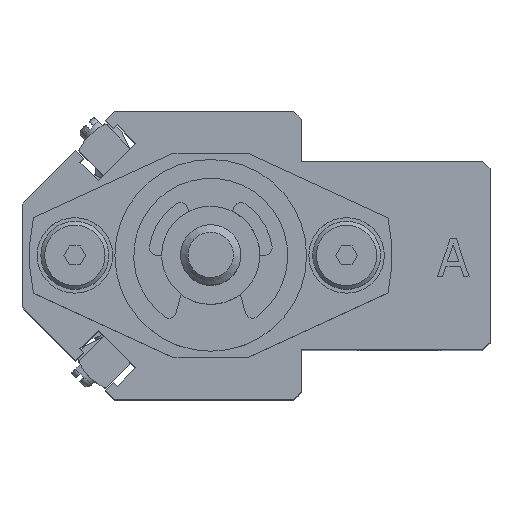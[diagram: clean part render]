
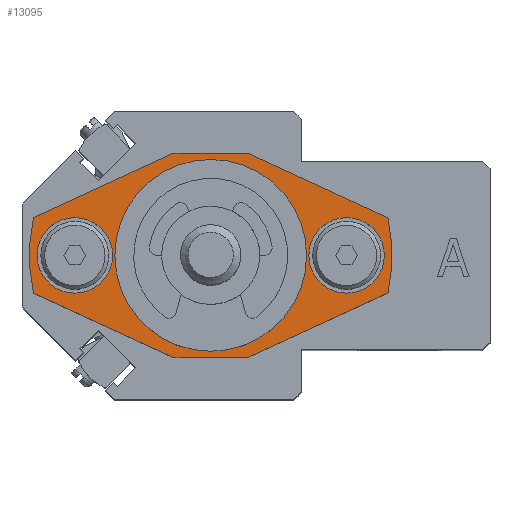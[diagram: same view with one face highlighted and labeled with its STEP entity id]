
A CAD part, top view. The second image highlights one B-rep face of the part: STEP entity #13095.
In plain terms, the highlighted planar face has unit normal (0, 0, 1).
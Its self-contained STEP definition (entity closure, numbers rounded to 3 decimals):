
#359=FACE_BOUND('',#4797,.T.);
#360=FACE_BOUND('',#4798,.T.);
#361=FACE_BOUND('',#4799,.T.);
#1539=LINE('',#21553,#2922);
#1546=LINE('',#21570,#2929);
#1547=LINE('',#21573,#2930);
#1548=LINE('',#21574,#2931);
#1549=LINE('',#21576,#2932);
#1550=LINE('',#21577,#2933);
#2922=VECTOR('',#17468,10.);
#2929=VECTOR('',#17483,10.);
#2930=VECTOR('',#17486,10.);
#2931=VECTOR('',#17487,10.);
#2932=VECTOR('',#17488,10.);
#2933=VECTOR('',#17489,10.);
#3405=CIRCLE('',#14359,10.5);
#3406=CIRCLE('',#14360,10.5);
#3413=CIRCLE('',#14371,24.);
#3415=CIRCLE('',#14374,24.);
#3418=CIRCLE('',#14381,5.);
#3419=CIRCLE('',#14382,5.);
#3420=CIRCLE('',#14383,5.);
#3421=CIRCLE('',#14384,5.);
#4103=FACE_OUTER_BOUND('',#4796,.T.);
#4796=EDGE_LOOP('',(#11007,#11008,#11009,#11010,#11011,#11012,#11013,#11014));
#4797=EDGE_LOOP('',(#11015,#11016));
#4798=EDGE_LOOP('',(#11017,#11018));
#4799=EDGE_LOOP('',(#11019,#11020));
#5964=VERTEX_POINT('',#21511);
#5965=VERTEX_POINT('',#21513);
#5973=VERTEX_POINT('',#21534);
#5974=VERTEX_POINT('',#21536);
#5977=VERTEX_POINT('',#21543);
#5978=VERTEX_POINT('',#21545);
#5980=VERTEX_POINT('',#21551);
#5986=VERTEX_POINT('',#21568);
#5987=VERTEX_POINT('',#21572);
#5988=VERTEX_POINT('',#21575);
#5989=VERTEX_POINT('',#21578);
#5990=VERTEX_POINT('',#21579);
#5991=VERTEX_POINT('',#21582);
#5992=VERTEX_POINT('',#21583);
#7697=EDGE_CURVE('',#5965,#5964,#3405,.T.);
#7698=EDGE_CURVE('',#5964,#5965,#3406,.T.);
#7707=EDGE_CURVE('',#5974,#5973,#3413,.T.);
#7711=EDGE_CURVE('',#5978,#5977,#3415,.T.);
#7715=EDGE_CURVE('',#5973,#5980,#1539,.T.);
#7724=EDGE_CURVE('',#5977,#5986,#1546,.T.);
#7725=EDGE_CURVE('',#5980,#5987,#1547,.T.);
#7726=EDGE_CURVE('',#5987,#5978,#1548,.T.);
#7727=EDGE_CURVE('',#5986,#5988,#1549,.T.);
#7728=EDGE_CURVE('',#5988,#5974,#1550,.T.);
#7729=EDGE_CURVE('',#5989,#5990,#3418,.T.);
#7730=EDGE_CURVE('',#5990,#5989,#3419,.T.);
#7731=EDGE_CURVE('',#5991,#5992,#3420,.T.);
#7732=EDGE_CURVE('',#5992,#5991,#3421,.T.);
#11007=ORIENTED_EDGE('',*,*,#7707,.T.);
#11008=ORIENTED_EDGE('',*,*,#7715,.T.);
#11009=ORIENTED_EDGE('',*,*,#7725,.T.);
#11010=ORIENTED_EDGE('',*,*,#7726,.T.);
#11011=ORIENTED_EDGE('',*,*,#7711,.T.);
#11012=ORIENTED_EDGE('',*,*,#7724,.T.);
#11013=ORIENTED_EDGE('',*,*,#7727,.T.);
#11014=ORIENTED_EDGE('',*,*,#7728,.T.);
#11015=ORIENTED_EDGE('',*,*,#7697,.T.);
#11016=ORIENTED_EDGE('',*,*,#7698,.T.);
#11017=ORIENTED_EDGE('',*,*,#7729,.T.);
#11018=ORIENTED_EDGE('',*,*,#7730,.T.);
#11019=ORIENTED_EDGE('',*,*,#7731,.T.);
#11020=ORIENTED_EDGE('',*,*,#7732,.T.);
#12290=PLANE('',#14380);
#13095=ADVANCED_FACE('',(#4103,#359,#360,#361),#12290,.T.);
#14359=AXIS2_PLACEMENT_3D('',#21514,#17427,#17428);
#14360=AXIS2_PLACEMENT_3D('',#21515,#17429,#17430);
#14371=AXIS2_PLACEMENT_3D('',#21537,#17453,#17454);
#14374=AXIS2_PLACEMENT_3D('',#21546,#17461,#17462);
#14380=AXIS2_PLACEMENT_3D('',#21571,#17484,#17485);
#14381=AXIS2_PLACEMENT_3D('',#21580,#17490,#17491);
#14382=AXIS2_PLACEMENT_3D('',#21581,#17492,#17493);
#14383=AXIS2_PLACEMENT_3D('',#21584,#17494,#17495);
#14384=AXIS2_PLACEMENT_3D('',#21585,#17496,#17497);
#17427=DIRECTION('center_axis',(0.,0.,-1.));
#17428=DIRECTION('ref_axis',(1.,0.,0.));
#17429=DIRECTION('center_axis',(0.,0.,-1.));
#17430=DIRECTION('ref_axis',(1.,0.,0.));
#17453=DIRECTION('center_axis',(0.,0.,1.));
#17454=DIRECTION('ref_axis',(0.978,-0.208,0.));
#17461=DIRECTION('center_axis',(0.,0.,1.));
#17462=DIRECTION('ref_axis',(-0.978,0.208,0.));
#17468=DIRECTION('',(0.908,-0.418,0.));
#17483=DIRECTION('',(-0.908,0.418,0.));
#17484=DIRECTION('center_axis',(0.,0.,1.));
#17485=DIRECTION('ref_axis',(1.,0.,0.));
#17486=DIRECTION('',(1.,0.,0.));
#17487=DIRECTION('',(0.908,0.418,0.));
#17488=DIRECTION('',(-1.,0.,0.));
#17489=DIRECTION('',(-0.908,-0.418,0.));
#17490=DIRECTION('center_axis',(0.,0.,-1.));
#17491=DIRECTION('ref_axis',(1.,0.,0.));
#17492=DIRECTION('center_axis',(0.,0.,-1.));
#17493=DIRECTION('ref_axis',(1.,0.,0.));
#17494=DIRECTION('center_axis',(0.,0.,-1.));
#17495=DIRECTION('ref_axis',(1.,0.,0.));
#17496=DIRECTION('center_axis',(0.,0.,-1.));
#17497=DIRECTION('ref_axis',(1.,0.,0.));
#21511=CARTESIAN_POINT('',(-10.5,0.,6.));
#21513=CARTESIAN_POINT('',(10.5,0.,6.));
#21514=CARTESIAN_POINT('Origin',(0.,0.,6.));
#21515=CARTESIAN_POINT('Origin',(0.,0.,6.));
#21534=CARTESIAN_POINT('',(-23.473,-5.001,6.));
#21536=CARTESIAN_POINT('',(-23.473,5.001,6.));
#21537=CARTESIAN_POINT('Origin',(0.,0.,6.));
#21543=CARTESIAN_POINT('',(23.473,5.001,6.));
#21545=CARTESIAN_POINT('',(23.473,-5.001,6.));
#21546=CARTESIAN_POINT('Origin',(0.,0.,6.));
#21551=CARTESIAN_POINT('',(-5.,-13.5,6.));
#21553=CARTESIAN_POINT('',(-15.7,-8.578,6.));
#21568=CARTESIAN_POINT('',(5.,13.5,6.));
#21570=CARTESIAN_POINT('',(15.7,8.578,6.));
#21571=CARTESIAN_POINT('Origin',(0.,0.,6.));
#21572=CARTESIAN_POINT('',(5.,-13.5,6.));
#21573=CARTESIAN_POINT('',(25.4,-13.5,6.));
#21574=CARTESIAN_POINT('',(15.7,-8.578,6.));
#21575=CARTESIAN_POINT('',(-5.,13.5,6.));
#21576=CARTESIAN_POINT('',(-25.4,13.5,6.));
#21577=CARTESIAN_POINT('',(-15.7,8.578,6.));
#21578=CARTESIAN_POINT('',(-13.,0.,6.));
#21579=CARTESIAN_POINT('',(-23.,0.,6.));
#21580=CARTESIAN_POINT('Origin',(-18.,0.,6.));
#21581=CARTESIAN_POINT('Origin',(-18.,0.,6.));
#21582=CARTESIAN_POINT('',(23.,0.,6.));
#21583=CARTESIAN_POINT('',(13.,0.,6.));
#21584=CARTESIAN_POINT('Origin',(18.,0.,6.));
#21585=CARTESIAN_POINT('Origin',(18.,0.,6.));
